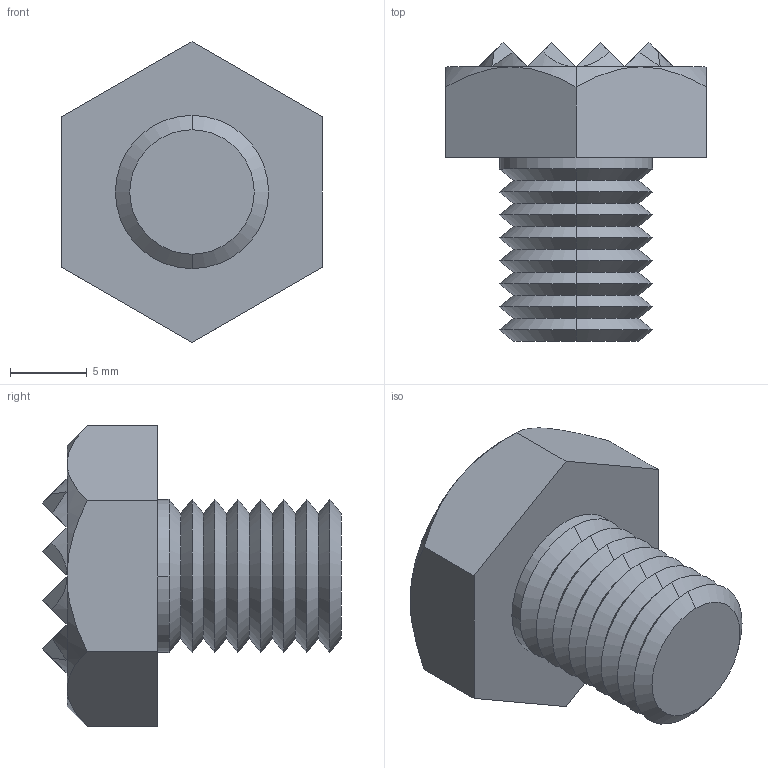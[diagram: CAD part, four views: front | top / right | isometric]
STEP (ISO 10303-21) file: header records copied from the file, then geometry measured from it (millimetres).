
FILE_DESCRIPTION (( 'STEP AP203' ), '1' );
FILE_NAME ('35400.W0006.step', '2017-07-03T07:20:56', ( 'User' ), ( '' ), 'SwSTEP 2.0', 'SolidWorks 2009', '' );
FILE_SCHEMA (( 'CONFIG_CONTROL_DESIGN' ));
Length unit declared in the file: millimetre
Products named in the file (1): 35400.W0006
Bounding box: 17 x 19.5 x 19.63 mm (x, y, z)
Volume: 2323.6 mm3; surface area: 1399.3 mm2
Topology: 1 solids, 1 shells, 116 faces, 212 edges, 100 vertices
Faces by surface type: plane 65, cone 49, cylinder 2
Entity records: 2814 total; most frequent: CARTESIAN_POINT 583, DIRECTION 465, ORIENTED_EDGE 424, EDGE_CURVE 212, AXIS2_PLACEMENT_3D 172, VECTOR 121, LINE 121, EDGE_LOOP 118
